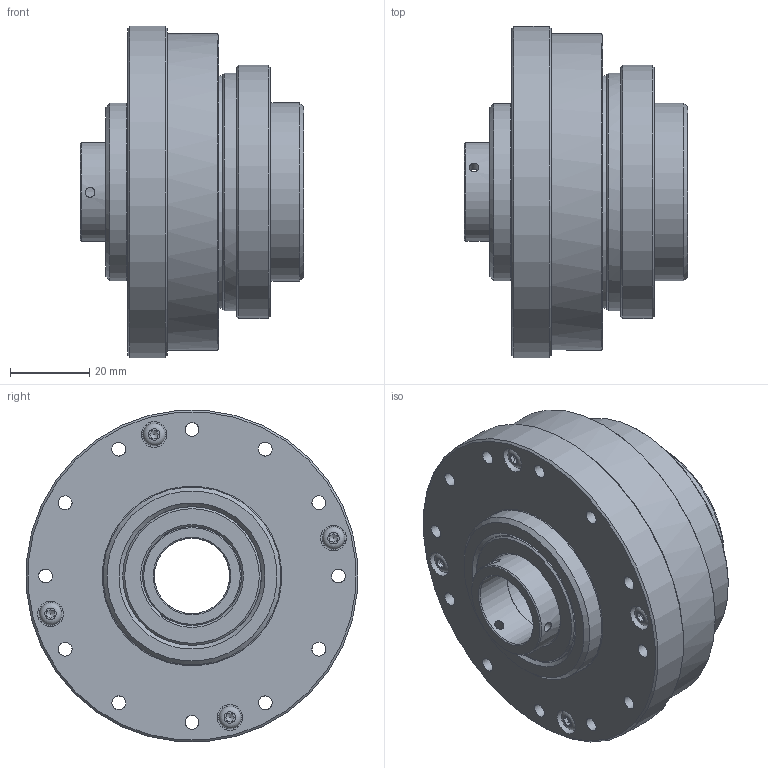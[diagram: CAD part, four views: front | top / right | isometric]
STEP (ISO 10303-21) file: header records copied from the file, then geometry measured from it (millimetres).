
FILE_DESCRIPTION(/* description */ (''),/* implementation_level */ '2;1');
FILE_NAME(/* name */ 'S:\TB00F\研發課二組\機密級\1.\X2\8A2D8A08\X0\\01-DT\DT圖面-y\2.組合圖\\X2\6A21578B\X0\\WTI-S-XX-AH\WTI-S-17-AH模型\AK000331.stp',/* time_stamp */ '2018-10-29T14:44:49+08:00',/* author */ ('yin210'),/* organization */ (''),/* preprocessor_version */ 'ST-DEVELOPER v15.2',/* originating_system */ 'Autodesk Inventor 2014',/* authorisation */ '');
FILE_SCHEMA (('AUTOMOTIVE_DESIGN { 1 0 10303 214 3 1 1 }'));
Length unit declared in the file: centimetre
Products named in the file (1): AK000331
Bounding box: 56.5 x 83.68 x 83.68 mm (x, y, z)
Volume: 163755.4 mm3; surface area: 32866.7 mm2
Topology: 1 solids, 1 shells, 234 faces, 540 edges, 357 vertices
Faces by surface type: plane 99, cylinder 77, cone 48, torus 10
Full cylindrical faces by diameter (mm): 2.459 x19, 3.5 x28, 5.5 x4, 5.7 x4, 6.5 x8, 19 x2, 19.5 x1, 25 x2, 35 x2, 45 x2, 59 x1, 60 x1, 64 x1, 80 x1, 84 x1
Entity records: 5806 total; most frequent: CARTESIAN_POINT 1155, DIRECTION 940, ORIENTED_EDGE 674, EDGE_LOOP 450, AXIS2_PLACEMENT_3D 422, EDGE_CURVE 337, VERTEX_POINT 289, FACE_BOUND 243
